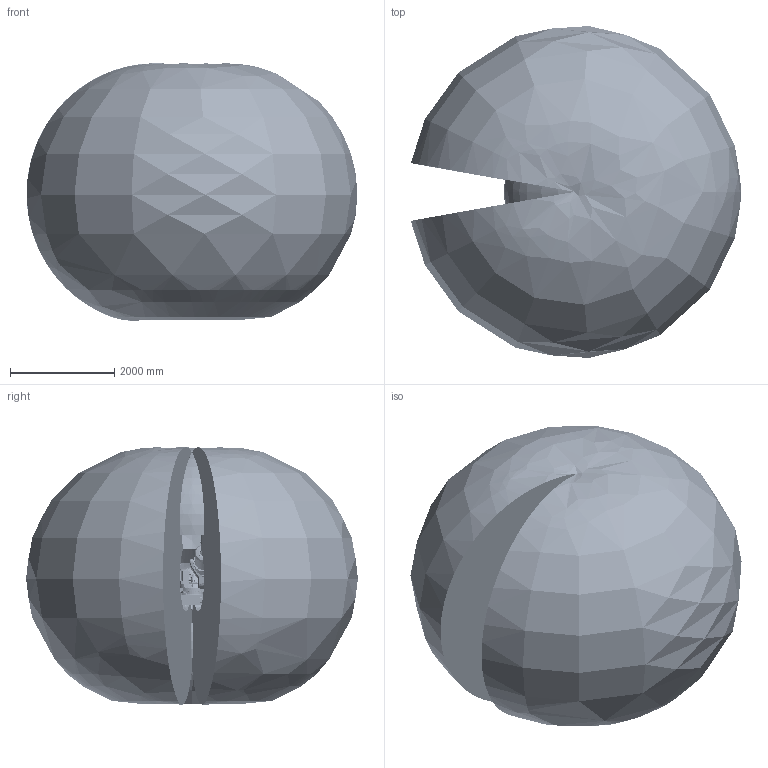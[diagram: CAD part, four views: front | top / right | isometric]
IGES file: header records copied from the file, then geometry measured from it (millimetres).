
Start section: SolidWorks IGES file using analytic representation for surfaces
Global section: file name: C:\Data\SAP_DOC\IRB6740_lightweight\6750S\IRB 6750S ASM\IRB6750S_350kg-320_OC_02_SW_J\IRB6750S_350kg-320_OC_02_IGES_J\IRB6750S_350kg-320_OC_02_ASM_CAD.igs; native system: SolidWorks 2024; preprocessor: SolidWorks 2024; author: SEJAOLS6; date: 260507.074502; units: millimetre
Bounding box: 6348.53 x 6373.35 x 4940.43 mm (x, y, z)
Surface area: 166903277.3 mm2 (no closed solid volume)
Topology: 0 solids, 0 shells, 8427 faces, 142716 edges, 142461 vertices
Faces by surface type: bspline 4660, revolution 3767
